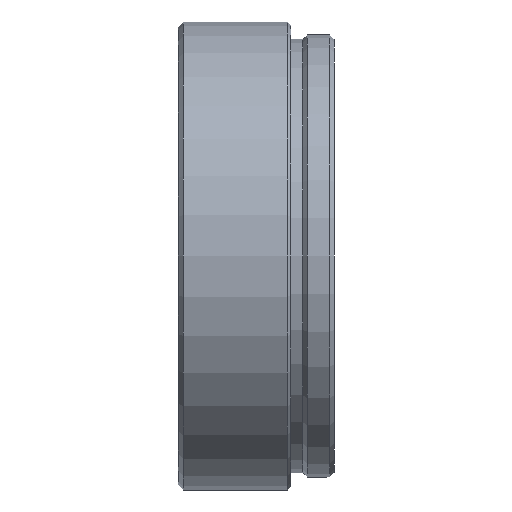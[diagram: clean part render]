
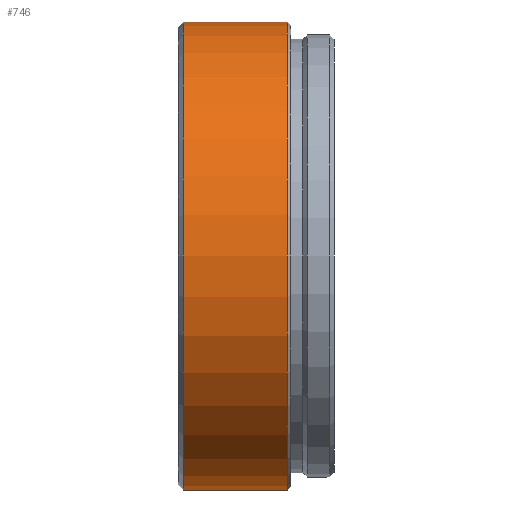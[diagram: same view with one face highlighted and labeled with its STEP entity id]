
A CAD part, front view. The second image highlights one B-rep face of the part: STEP entity #746.
In plain terms, the highlighted cylindrical face has radius 13.5 mm (diameter 27 mm), a partial arc.
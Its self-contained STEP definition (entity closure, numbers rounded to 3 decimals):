
#11 = CIRCLE ( 'NONE', #373, 13.5 ) ;
#41 = LINE ( 'NONE', #1030, #803 ) ;
#66 = CIRCLE ( 'NONE', #375, 13.5 ) ;
#79 = EDGE_LOOP ( 'NONE', ( #225, #1306, #152, #218 ) ) ;
#98 = LINE ( 'NONE', #1140, #222 ) ;
#152 = ORIENTED_EDGE ( 'NONE', *, *, #464, .T. ) ;
#218 = ORIENTED_EDGE ( 'NONE', *, *, #406, .F. ) ;
#222 = VECTOR ( 'NONE', #1177, 1000. ) ;
#225 = ORIENTED_EDGE ( 'NONE', *, *, #456, .F. ) ;
#347 = AXIS2_PLACEMENT_3D ( 'NONE', #534, #663, #661 ) ;
#373 = AXIS2_PLACEMENT_3D ( 'NONE', #970, #1198, #1219 ) ;
#375 = AXIS2_PLACEMENT_3D ( 'NONE', #1108, #1116, #1173 ) ;
#406 = EDGE_CURVE ( 'NONE', #1316, #1254, #66, .T. ) ;
#428 = EDGE_CURVE ( 'NONE', #1270, #1294, #11, .T. ) ;
#456 = EDGE_CURVE ( 'NONE', #1270, #1316, #98, .T. ) ;
#464 = EDGE_CURVE ( 'NONE', #1294, #1254, #41, .T. ) ;
#533 = CARTESIAN_POINT ( 'NONE',  ( -6.2, 0., 13.5 ) ) ;
#534 = CARTESIAN_POINT ( 'NONE',  ( -8.5, 0., 0. ) ) ;
#547 = CARTESIAN_POINT ( 'NONE',  ( -0.2, 0., -13.5 ) ) ;
#661 = DIRECTION ( 'NONE',  ( 0., 0., 1. ) ) ;
#663 = DIRECTION ( 'NONE',  ( -1., 0., 0. ) ) ;
#694 = CARTESIAN_POINT ( 'NONE',  ( -0.2, 0., 13.5 ) ) ;
#702 = CARTESIAN_POINT ( 'NONE',  ( -6.2, 0., -13.5 ) ) ;
#746 = ADVANCED_FACE ( 'NONE', ( #945 ), #930, .T. ) ;
#803 = VECTOR ( 'NONE', #1082, 1000. ) ;
#930 = CYLINDRICAL_SURFACE ( 'NONE', #347, 13.5 ) ;
#945 = FACE_OUTER_BOUND ( 'NONE', #79, .T. ) ;
#970 = CARTESIAN_POINT ( 'NONE',  ( -0.2, 0., 0. ) ) ;
#1030 = CARTESIAN_POINT ( 'NONE',  ( -8.5, 0., 13.5 ) ) ;
#1082 = DIRECTION ( 'NONE',  ( -1., 0., 0. ) ) ;
#1108 = CARTESIAN_POINT ( 'NONE',  ( -6.2, 0., 0. ) ) ;
#1116 = DIRECTION ( 'NONE',  ( -1., 0., 0. ) ) ;
#1140 = CARTESIAN_POINT ( 'NONE',  ( -8.5, 0., -13.5 ) ) ;
#1173 = DIRECTION ( 'NONE',  ( 0., 0., 1. ) ) ;
#1177 = DIRECTION ( 'NONE',  ( -1., 0., 0. ) ) ;
#1198 = DIRECTION ( 'NONE',  ( -1., 0., 0. ) ) ;
#1219 = DIRECTION ( 'NONE',  ( 0., 0., 1. ) ) ;
#1254 = VERTEX_POINT ( 'NONE', #533 ) ;
#1270 = VERTEX_POINT ( 'NONE', #547 ) ;
#1294 = VERTEX_POINT ( 'NONE', #694 ) ;
#1306 = ORIENTED_EDGE ( 'NONE', *, *, #428, .T. ) ;
#1316 = VERTEX_POINT ( 'NONE', #702 ) ;
